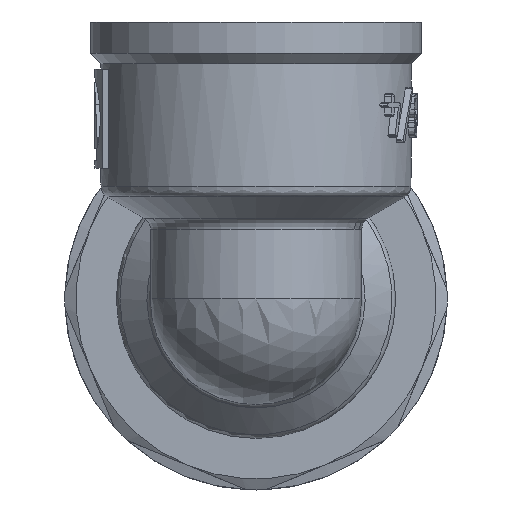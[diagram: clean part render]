
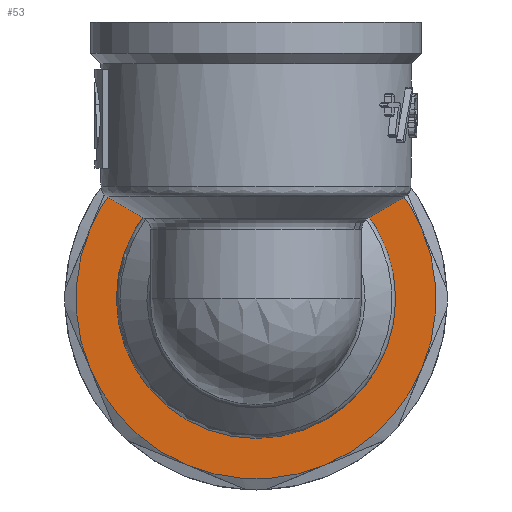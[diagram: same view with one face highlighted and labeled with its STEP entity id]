
A CAD part, front view. The second image highlights one B-rep face of the part: STEP entity #53.
In plain terms, the highlighted planar face has unit normal (0, -1, 0).
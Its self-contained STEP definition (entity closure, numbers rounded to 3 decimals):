
#53=ADVANCED_FACE('',(#330,#332),#334,.F.);
#330=FACE_BOUND('',#331,.T.);
#331=EDGE_LOOP('',(#2664,#2665,#2666,#2667,#2668,#2669,#2670,#2671));
#332=FACE_BOUND('',#333,.T.);
#333=EDGE_LOOP('',(#2672));
#334=PLANE('',#335);
#335=AXIS2_PLACEMENT_3D('',#336,#337,#338);
#336=CARTESIAN_POINT('',(0.,15.5,0.));
#337=DIRECTION('',(0.,1.,0.));
#338=DIRECTION('',(-1.,0.,0.));
#2664=ORIENTED_EDGE('',*,*,#4416,.T.);
#2665=ORIENTED_EDGE('',*,*,#4417,.T.);
#2666=ORIENTED_EDGE('',*,*,#4418,.T.);
#2667=ORIENTED_EDGE('',*,*,#4419,.T.);
#2668=ORIENTED_EDGE('',*,*,#4420,.T.);
#2669=ORIENTED_EDGE('',*,*,#4421,.T.);
#2670=ORIENTED_EDGE('',*,*,#4422,.T.);
#2671=ORIENTED_EDGE('',*,*,#4423,.T.);
#2672=ORIENTED_EDGE('',*,*,#4424,.T.);
#4416=EDGE_CURVE('',#5130,#5131,#5132,.F.);
#4417=EDGE_CURVE('',#5131,#5133,#5134,.F.);
#4418=EDGE_CURVE('',#5133,#5135,#5136,.F.);
#4419=EDGE_CURVE('',#5135,#5137,#5138,.F.);
#4420=EDGE_CURVE('',#5137,#5139,#5140,.F.);
#4421=EDGE_CURVE('',#5139,#5141,#5142,.F.);
#4422=EDGE_CURVE('',#5141,#5143,#5144,.F.);
#4423=EDGE_CURVE('',#5143,#5130,#5145,.F.);
#4424=EDGE_CURVE('',#5146,#5146,#5147,.T.);
#5130=VERTEX_POINT('',#6323);
#5131=VERTEX_POINT('',#6324);
#5132=CIRCLE('',#6325,14.5);
#5133=VERTEX_POINT('',#6329);
#5134=CIRCLE('',#6330,14.5);
#5135=VERTEX_POINT('',#6334);
#5136=CIRCLE('',#6335,14.5);
#5137=VERTEX_POINT('',#6339);
#5138=CIRCLE('',#6340,14.5);
#5139=VERTEX_POINT('',#6344);
#5140=CIRCLE('',#6345,14.5);
#5141=VERTEX_POINT('',#6349);
#5142=CIRCLE('',#6350,14.5);
#5143=VERTEX_POINT('',#6354);
#5144=CIRCLE('',#6355,14.5);
#5145=CIRCLE('',#6359,14.5);
#5146=VERTEX_POINT('',#6363);
#5147=CIRCLE('',#6364,11.25);
#6323=CARTESIAN_POINT('',(-5.549,15.5,-13.396));
#6324=CARTESIAN_POINT('',(5.549,15.5,-13.396));
#6325=AXIS2_PLACEMENT_3D('',#6326,#6327,#6328);
#6326=CARTESIAN_POINT('',(0.,15.5,0.));
#6327=DIRECTION('',(0.,1.,0.));
#6328=DIRECTION('',(0.383,0.,-0.924));
#6329=CARTESIAN_POINT('',(13.396,15.5,-5.549));
#6330=AXIS2_PLACEMENT_3D('',#6331,#6332,#6333);
#6331=CARTESIAN_POINT('',(0.,15.5,0.));
#6332=DIRECTION('',(0.,1.,0.));
#6333=DIRECTION('',(0.924,0.,-0.383));
#6334=CARTESIAN_POINT('',(13.396,15.5,5.549));
#6335=AXIS2_PLACEMENT_3D('',#6336,#6337,#6338);
#6336=CARTESIAN_POINT('',(0.,15.5,0.));
#6337=DIRECTION('',(0.,1.,0.));
#6338=DIRECTION('',(0.924,0.,0.383));
#6339=CARTESIAN_POINT('',(5.549,15.5,13.396));
#6340=AXIS2_PLACEMENT_3D('',#6341,#6342,#6343);
#6341=CARTESIAN_POINT('',(0.,15.5,0.));
#6342=DIRECTION('',(0.,1.,0.));
#6343=DIRECTION('',(0.383,0.,0.924));
#6344=CARTESIAN_POINT('',(-5.549,15.5,13.396));
#6345=AXIS2_PLACEMENT_3D('',#6346,#6347,#6348);
#6346=CARTESIAN_POINT('',(0.,15.5,0.));
#6347=DIRECTION('',(0.,1.,0.));
#6348=DIRECTION('',(-0.383,0.,0.924));
#6349=CARTESIAN_POINT('',(-13.396,15.5,5.549));
#6350=AXIS2_PLACEMENT_3D('',#6351,#6352,#6353);
#6351=CARTESIAN_POINT('',(0.,15.5,0.));
#6352=DIRECTION('',(0.,1.,0.));
#6353=DIRECTION('',(-0.924,0.,0.383));
#6354=CARTESIAN_POINT('',(-13.396,15.5,-5.549));
#6355=AXIS2_PLACEMENT_3D('',#6356,#6357,#6358);
#6356=CARTESIAN_POINT('',(0.,15.5,0.));
#6357=DIRECTION('',(0.,1.,0.));
#6358=DIRECTION('',(-0.924,0.,-0.383));
#6359=AXIS2_PLACEMENT_3D('',#6360,#6361,#6362);
#6360=CARTESIAN_POINT('',(0.,15.5,0.));
#6361=DIRECTION('',(0.,1.,0.));
#6362=DIRECTION('',(-0.383,0.,-0.924));
#6363=CARTESIAN_POINT('',(-11.25,15.5,0.));
#6364=AXIS2_PLACEMENT_3D('',#6365,#6366,#6367);
#6365=CARTESIAN_POINT('',(0.,15.5,0.));
#6366=DIRECTION('',(0.,1.,0.));
#6367=DIRECTION('',(-1.,0.,0.));
